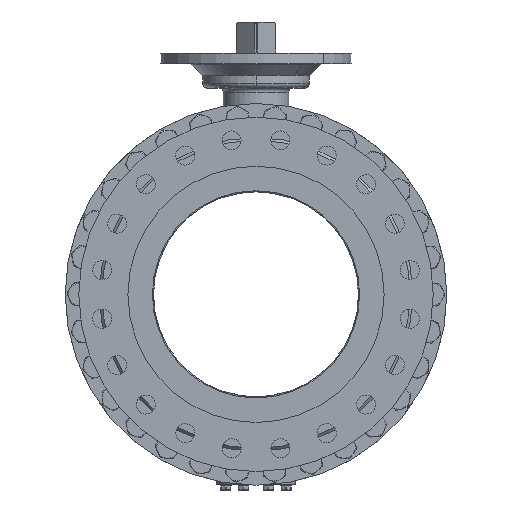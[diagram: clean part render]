
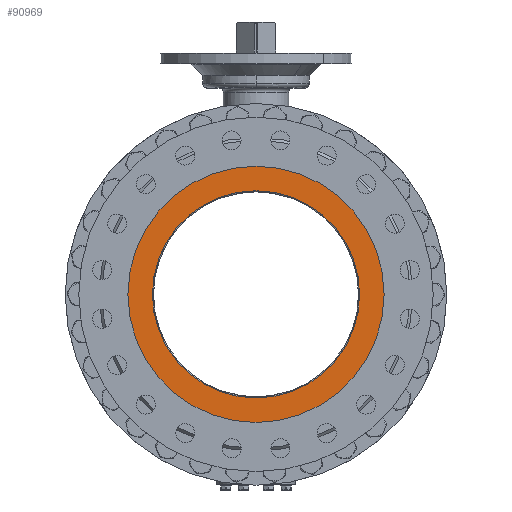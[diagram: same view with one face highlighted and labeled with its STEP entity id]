
A CAD part, left-side view. The second image highlights one B-rep face of the part: STEP entity #90969.
In plain terms, the highlighted planar face has unit normal (-1, 0, 0).
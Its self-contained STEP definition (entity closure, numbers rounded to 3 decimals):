
#14037=CARTESIAN_POINT('',(-419.,0.,0.));
#14038=DIRECTION('',(1.,0.,0.));
#14039=DIRECTION('',(0.,0.,1.));
#14040=AXIS2_PLACEMENT_3D('',#14037,#14038,#14039);
#14042=CARTESIAN_POINT('',(-419.,0.,0.));
#14043=DIRECTION('',(-1.,0.,0.));
#14044=DIRECTION('',(0.,0.,1.));
#14045=AXIS2_PLACEMENT_3D('',#14042,#14043,#14044);
#14047=CARTESIAN_POINT('',(-419.,0.,0.));
#14048=DIRECTION('',(-1.,0.,0.));
#14049=DIRECTION('',(0.,0.,1.));
#14050=AXIS2_PLACEMENT_3D('',#14047,#14048,#14049);
#14060=CARTESIAN_POINT('',(-419.,0.,0.));
#14061=DIRECTION('',(1.,0.,0.));
#14062=DIRECTION('',(0.,0.,1.));
#14063=AXIS2_PLACEMENT_3D('',#14060,#14061,#14062);
#63409=CARTESIAN_POINT('',(-419.,0.,190.));
#63411=VERTEX_POINT('',#63409);
#63417=CARTESIAN_POINT('',(-419.,0.,-190.));
#63419=VERTEX_POINT('',#63417);
#63568=CARTESIAN_POINT('',(-419.,0.,234.95));
#63570=VERTEX_POINT('',#63568);
#63572=CARTESIAN_POINT('',(-419.,0.,-234.95));
#63574=VERTEX_POINT('',#63572);
#90954=CARTESIAN_POINT('',(-419.,0.,0.));
#90955=DIRECTION('',(-1.,0.,0.));
#90956=DIRECTION('',(0.,0.,-1.));
#90957=AXIS2_PLACEMENT_3D('',#90954,#90955,#90956);
#90958=PLANE('',#90957);
#90960=ORIENTED_EDGE('',*,*,#90959,.F.);
#90962=ORIENTED_EDGE('',*,*,#90961,.T.);
#90963=EDGE_LOOP('',(#90960,#90962));
#90964=FACE_OUTER_BOUND('',#90963,.F.);
#90965=ORIENTED_EDGE('',*,*,#90933,.F.);
#90966=ORIENTED_EDGE('',*,*,#90949,.T.);
#90967=EDGE_LOOP('',(#90965,#90966));
#90968=FACE_BOUND('',#90967,.F.);
#90969=ADVANCED_FACE('',(#90964,#90968),#90958,.T.);
#14041=CIRCLE('',#14040,190.);
#14046=CIRCLE('',#14045,190.);
#14051=CIRCLE('',#14050,234.95);
#14064=CIRCLE('',#14063,234.95);
#90933=EDGE_CURVE('',#63411,#63419,#14041,.T.);
#90949=EDGE_CURVE('',#63411,#63419,#14046,.T.);
#90959=EDGE_CURVE('',#63570,#63574,#14051,.T.);
#90961=EDGE_CURVE('',#63570,#63574,#14064,.T.);
